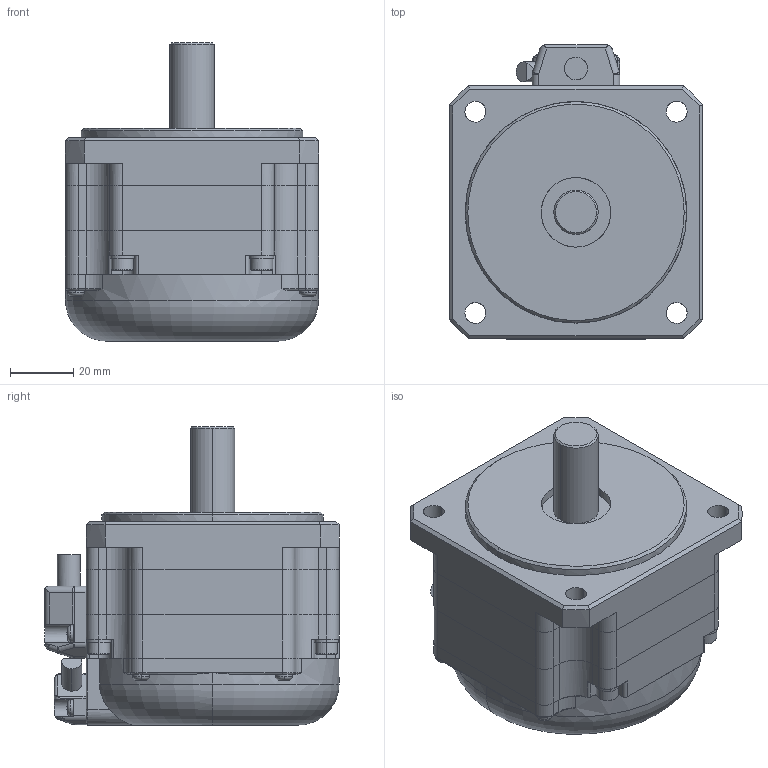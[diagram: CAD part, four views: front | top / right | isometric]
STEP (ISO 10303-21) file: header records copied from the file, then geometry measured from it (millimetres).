
FILE_DESCRIPTION (( 'STEP AP203' ), '1' );
FILE_NAME ('TS4611.STEP', '2010-08-06T14:20:47', ( 'render' ), ( '' ), 'SwSTEP 2.0', 'SolidWorks 2009', '' );
FILE_SCHEMA (( 'CONFIG_CONTROL_DESIGN' ));
Length unit declared in the file: millimetre
Products named in the file (1): TS4611
Bounding box: 80 x 93 x 94.3 mm (x, y, z)
Volume: 374603.5 mm3; surface area: 68890.6 mm2
Topology: 4 solids, 4 shells, 632 faces, 1582 edges, 970 vertices
Faces by surface type: plane 307, cylinder 217, cone 32, torus 29, sphere 28, bspline 19
Entity records: 22085 total; most frequent: CARTESIAN_POINT 8193, ORIENTED_EDGE 3146, DIRECTION 2423, EDGE_CURVE 1573, VERTEX_POINT 970, AXIS2_PLACEMENT_3D 862, LINE 699, VECTOR 699
